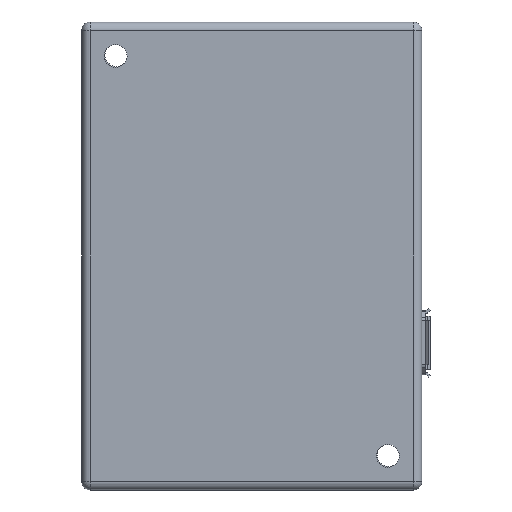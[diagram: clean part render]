
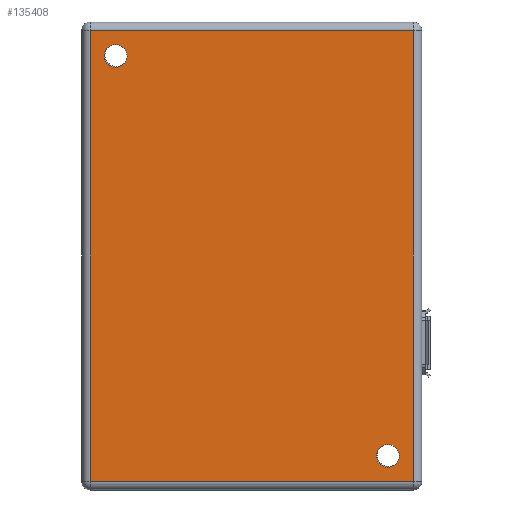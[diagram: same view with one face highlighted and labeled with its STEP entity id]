
A CAD part, front view. The second image highlights one B-rep face of the part: STEP entity #135408.
In plain terms, the highlighted planar face has unit normal (0, -1, 0).
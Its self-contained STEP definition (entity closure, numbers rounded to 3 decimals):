
#133572=DIRECTION('',(1.,0.,0.));
#133573=VECTOR('',#133572,53.);
#133574=CARTESIAN_POINT('',(-26.5,0.,-19.));
#133575=LINE('',#133574,#133573);
#133579=DIRECTION('',(0.,0.,-1.));
#133580=VECTOR('',#133579,38.);
#133581=CARTESIAN_POINT('',(-26.5,0.,19.));
#133582=LINE('',#133581,#133580);
#133586=DIRECTION('',(-1.,0.,0.));
#133587=VECTOR('',#133586,53.);
#133588=CARTESIAN_POINT('',(26.5,0.,19.));
#133589=LINE('',#133588,#133587);
#133593=DIRECTION('',(0.,0.,1.));
#133594=VECTOR('',#133593,38.);
#133595=CARTESIAN_POINT('',(26.5,0.,-19.));
#133596=LINE('',#133595,#133594);
#133600=CARTESIAN_POINT('',(23.5,0.,16.));
#133601=DIRECTION('',(0.,1.,0.));
#133602=DIRECTION('',(-1.,0.,0.));
#133603=AXIS2_PLACEMENT_3D('',#133600,#133601,#133602);
#133608=CARTESIAN_POINT('',(23.5,0.,16.));
#133609=DIRECTION('',(0.,1.,0.));
#133610=DIRECTION('',(1.,0.,0.));
#133611=AXIS2_PLACEMENT_3D('',#133608,#133609,#133610);
#133616=CARTESIAN_POINT('',(-23.5,0.,-16.));
#133617=DIRECTION('',(0.,1.,0.));
#133618=DIRECTION('',(-1.,0.,0.));
#133619=AXIS2_PLACEMENT_3D('',#133616,#133617,#133618);
#133624=CARTESIAN_POINT('',(-23.5,0.,-16.));
#133625=DIRECTION('',(0.,1.,0.));
#133626=DIRECTION('',(1.,0.,0.));
#133627=AXIS2_PLACEMENT_3D('',#133624,#133625,#133626);
#133858=CARTESIAN_POINT('',(-26.5,0.,-19.));
#133859=CARTESIAN_POINT('',(26.5,0.,-19.));
#133860=VERTEX_POINT('',#133858);
#133861=VERTEX_POINT('',#133859);
#133870=CARTESIAN_POINT('',(-26.5,0.,19.));
#133871=VERTEX_POINT('',#133870);
#133878=CARTESIAN_POINT('',(26.5,0.,19.));
#133879=VERTEX_POINT('',#133878);
#133984=CARTESIAN_POINT('',(22.15,0.,16.));
#133985=CARTESIAN_POINT('',(24.85,0.,16.));
#133986=VERTEX_POINT('',#133984);
#133987=VERTEX_POINT('',#133985);
#133988=CARTESIAN_POINT('',(-24.85,0.,-16.));
#133989=CARTESIAN_POINT('',(-22.15,0.,-16.));
#133990=VERTEX_POINT('',#133988);
#133991=VERTEX_POINT('',#133989);
#135383=CARTESIAN_POINT('',(0.,0.,0.));
#135384=DIRECTION('',(0.,1.,0.));
#135385=DIRECTION('',(1.,0.,0.));
#135386=AXIS2_PLACEMENT_3D('',#135383,#135384,#135385);
#135387=PLANE('',#135386);
#135388=ORIENTED_EDGE('',*,*,#135376,.F.);
#135389=ORIENTED_EDGE('',*,*,#134185,.F.);
#135391=ORIENTED_EDGE('',*,*,#135390,.F.);
#135393=ORIENTED_EDGE('',*,*,#135392,.F.);
#135394=EDGE_LOOP('',(#135388,#135389,#135391,#135393));
#135395=FACE_OUTER_BOUND('',#135394,.F.);
#135397=ORIENTED_EDGE('',*,*,#135396,.F.);
#135399=ORIENTED_EDGE('',*,*,#135398,.F.);
#135400=EDGE_LOOP('',(#135397,#135399));
#135401=FACE_BOUND('',#135400,.F.);
#135403=ORIENTED_EDGE('',*,*,#135402,.F.);
#135405=ORIENTED_EDGE('',*,*,#135404,.F.);
#135406=EDGE_LOOP('',(#135403,#135405));
#135407=FACE_BOUND('',#135406,.F.);
#135408=ADVANCED_FACE('',(#135395,#135401,#135407),#135387,.F.);
#133604=CIRCLE('',#133603,1.35);
#133612=CIRCLE('',#133611,1.35);
#133620=CIRCLE('',#133619,1.35);
#133628=CIRCLE('',#133627,1.35);
#134185=EDGE_CURVE('',#133871,#133860,#133582,.T.);
#135376=EDGE_CURVE('',#133860,#133861,#133575,.T.);
#135390=EDGE_CURVE('',#133879,#133871,#133589,.T.);
#135392=EDGE_CURVE('',#133861,#133879,#133596,.T.);
#135396=EDGE_CURVE('',#133986,#133987,#133604,.T.);
#135398=EDGE_CURVE('',#133987,#133986,#133612,.T.);
#135402=EDGE_CURVE('',#133990,#133991,#133620,.T.);
#135404=EDGE_CURVE('',#133991,#133990,#133628,.T.);
